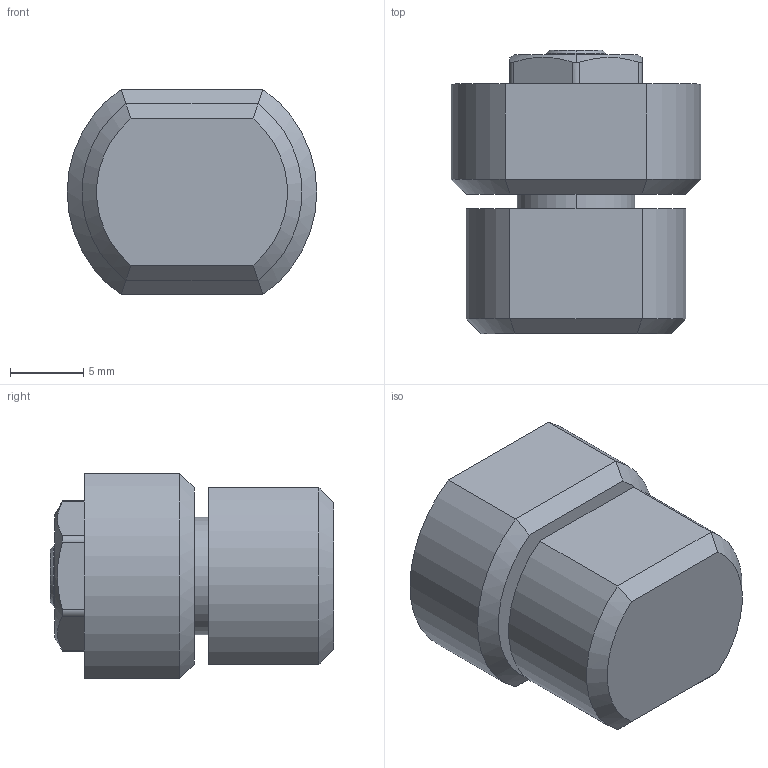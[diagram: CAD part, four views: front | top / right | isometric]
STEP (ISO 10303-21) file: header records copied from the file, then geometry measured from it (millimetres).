
FILE_DESCRIPTION (( 'STEP AP203' ), '1' );
FILE_NAME ('XG11-002-1.STEP', '2025-07-04T06:11:11', ( '微软用户' ), ( '微软中国' ), 'SwSTEP 2.0', 'SolidWorks 2024', '' );
FILE_SCHEMA (( 'CONFIG_CONTROL_DESIGN' ));
Length unit declared in the file: millimetre
Products named in the file (1): XG11-002-1
Bounding box: 17 x 19.3 x 14 mm (x, y, z)
Volume: 2896.2 mm3; surface area: 1769.8 mm2
Topology: 1 solids, 1 shells, 57 faces, 130 edges, 81 vertices
Faces by surface type: plane 28, cylinder 21, cone 8
Entity records: 1732 total; most frequent: CARTESIAN_POINT 371, DIRECTION 273, ORIENTED_EDGE 260, EDGE_CURVE 130, AXIS2_PLACEMENT_3D 107, VERTEX_POINT 81, EDGE_LOOP 63, VECTOR 59
